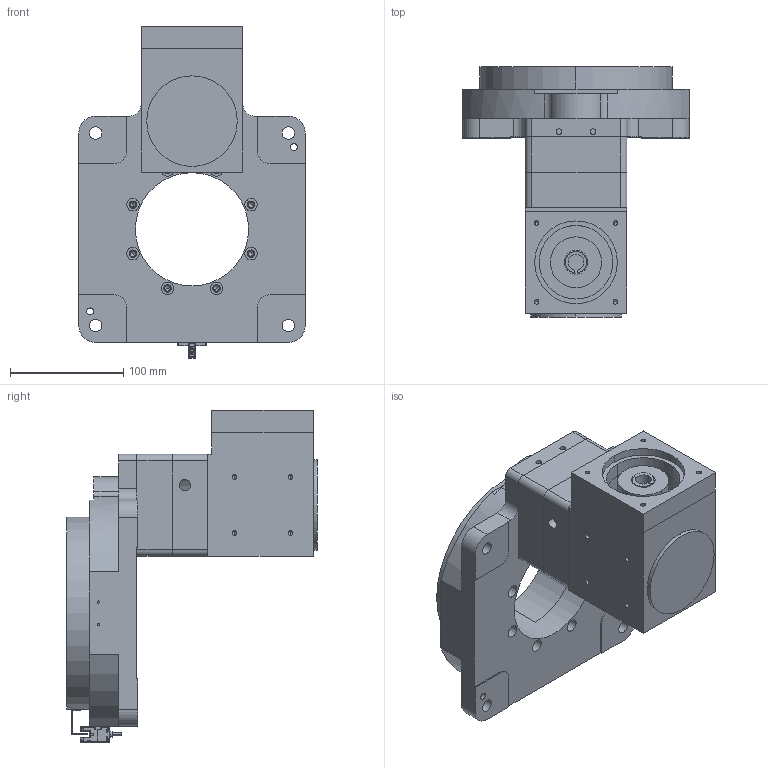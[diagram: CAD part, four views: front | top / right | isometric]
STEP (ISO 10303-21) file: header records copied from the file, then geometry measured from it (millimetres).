
FILE_DESCRIPTION((''),'2;1');
FILE_NAME('ZCT200-19-70-90-M6_ASM','2021-07-15T16:09:24',('Administrator'),(''),'CREO PARAMETRIC BY PTC INC, 2017260','CREO PARAMETRIC BY PTC INC, 2017260','');
FILE_SCHEMA(('CONFIG_CONTROL_DESIGN','SHAPE_APPEARANCE_LAYERS_GROUPS'));
Length unit declared in the file: millimetre
Products named in the file (16): FLANGE_200-80-100-M6; _1_20; __10001; __ZCR86000; SHAFT-SLEEVE-19TO14_86; ZCR90-S200_ASM; _2497_10; _10; _4398_10; _100; ST-303_1_2_ASM; ROCKER_ZCT200; SENSOR_ZCT200_ASM; BASE-SOLID_ZCT200; BEARING-SEAT-SOLID_200; ZCT200-19-70-90-M6_ASM
Assembly tree (15 placements, depth 4):
  ZCT200-19-70-90-M6_ASM
    FLANGE_200-80-100-M6
    ZCR90-S200_ASM
      _1_20
      __10001
      __ZCR86000
      SHAFT-SLEEVE-19TO14_86
    SENSOR_ZCT200_ASM
      ST-303_1_2_ASM
        _2497_10
        _10
        _4398_10
        _100
      ROCKER_ZCT200
    BASE-SOLID_ZCT200
    BEARING-SEAT-SOLID_200
Bounding box: 200 x 221.5 x 293.2 mm (x, y, z)
Volume: 2866923.7 mm3; surface area: 317155.1 mm2
Topology: 12 solids, 12 shells, 763 faces, 1941 edges, 1195 vertices
Faces by surface type: plane 328, cylinder 327, cone 86, torus 8, sphere 8, bspline 6
Entity records: 23606 total; most frequent: CARTESIAN_POINT 4405, DIRECTION 4016, ORIENTED_EDGE 3698, EDGE_CURVE 1849, AXIS2_PLACEMENT_3D 1430, VERTEX_POINT 1195, VECTOR 1156, LINE 1156
